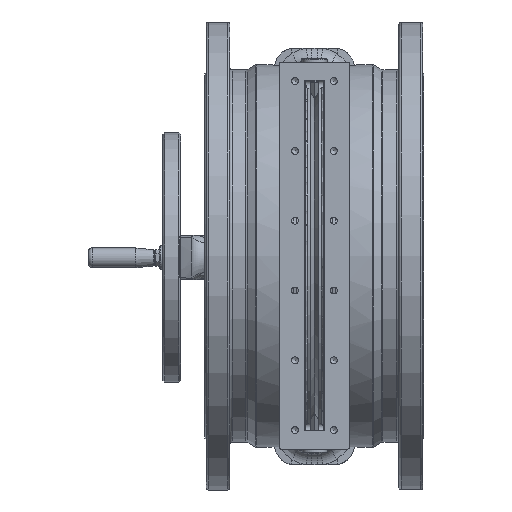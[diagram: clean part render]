
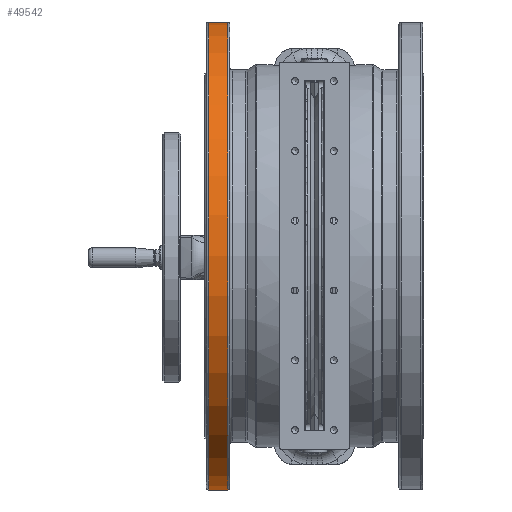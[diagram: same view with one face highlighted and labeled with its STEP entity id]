
A CAD part, top view. The second image highlights one B-rep face of the part: STEP entity #49542.
In plain terms, the highlighted cylindrical face has radius 295 mm (diameter 590 mm), a full revolution.
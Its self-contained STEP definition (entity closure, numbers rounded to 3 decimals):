
#4679=LINE('',#73822,#7881);
#7881=VECTOR('',#59677,295.);
#10867=CYLINDRICAL_SURFACE('',#53023,295.);
#12223=FACE_OUTER_BOUND('',#15197,.T.);
#15197=EDGE_LOOP('',(#34915,#34916,#34917,#34918,#34919));
#18719=CIRCLE('',#53018,295.);
#18723=CIRCLE('',#53024,295.);
#18724=CIRCLE('',#53025,295.);
#21817=VERTEX_POINT('',#73809);
#21820=VERTEX_POINT('',#73818);
#21821=VERTEX_POINT('',#73819);
#26839=EDGE_CURVE('',#21817,#21817,#18719,.T.);
#26843=EDGE_CURVE('',#21820,#21821,#18723,.T.);
#26844=EDGE_CURVE('',#21821,#21820,#18724,.T.);
#26845=EDGE_CURVE('',#21820,#21817,#4679,.T.);
#34915=ORIENTED_EDGE('',*,*,#26843,.T.);
#34916=ORIENTED_EDGE('',*,*,#26844,.T.);
#34917=ORIENTED_EDGE('',*,*,#26845,.T.);
#34918=ORIENTED_EDGE('',*,*,#26839,.F.);
#34919=ORIENTED_EDGE('',*,*,#26845,.F.);
#49542=ADVANCED_FACE('',(#12223),#10867,.T.);
#53018=AXIS2_PLACEMENT_3D('',#73810,#59661,#59662);
#53023=AXIS2_PLACEMENT_3D('',#73817,#59671,#59672);
#53024=AXIS2_PLACEMENT_3D('',#73820,#59673,#59674);
#53025=AXIS2_PLACEMENT_3D('',#73821,#59675,#59676);
#59661=DIRECTION('center_axis',(-1.,0.,0.));
#59662=DIRECTION('ref_axis',(0.,0.,
-1.));
#59671=DIRECTION('center_axis',(1.,0.,0.));
#59672=DIRECTION('ref_axis',(0.,0.,
-1.));
#59673=DIRECTION('center_axis',(-1.,0.,0.));
#59674=DIRECTION('ref_axis',(0.,0.,
1.));
#59675=DIRECTION('center_axis',(-1.,0.,0.));
#59676=DIRECTION('ref_axis',(0.,0.,
1.));
#59677=DIRECTION('',(-1.,0.,0.));
#73809=CARTESIAN_POINT('',(-133.5,0.,295.));
#73810=CARTESIAN_POINT('Origin',(-133.5,0.,
0.));
#73817=CARTESIAN_POINT('Origin',(-131.5,0.,
0.));
#73818=CARTESIAN_POINT('',(-109.5,0.,295.));
#73819=CARTESIAN_POINT('',(-109.5,0.,-295.));
#73820=CARTESIAN_POINT('Origin',(-109.5,0.,
0.));
#73821=CARTESIAN_POINT('Origin',(-109.5,0.,
0.));
#73822=CARTESIAN_POINT('',(-131.5,0.,295.));
